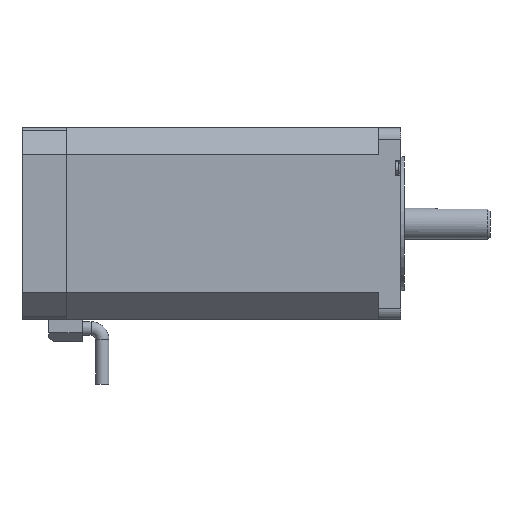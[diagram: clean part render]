
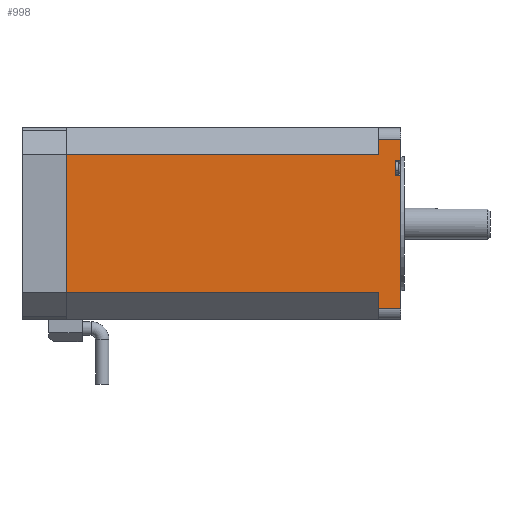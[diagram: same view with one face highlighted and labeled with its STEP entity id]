
A CAD part, left-side view. The second image highlights one B-rep face of the part: STEP entity #998.
In plain terms, the highlighted planar face has unit normal (-1, 0, 0).
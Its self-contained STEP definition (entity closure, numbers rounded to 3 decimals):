
#34 = LINE ( 'NONE', #3814, #2679 ) ;
#57 = LINE ( 'NONE', #176, #2163 ) ;
#129 = ORIENTED_EDGE ( 'NONE', *, *, #3328, .T. ) ;
#168 = DIRECTION ( 'NONE',  ( 0., 0., 1. ) ) ;
#176 = CARTESIAN_POINT ( 'NONE',  ( -40.542, -29.89, -38.5 ) ) ;
#292 = AXIS2_PLACEMENT_3D ( 'NONE', #2290, #1349, #4659 ) ;
#293 = CARTESIAN_POINT ( 'NONE',  ( -40.542, -37.39, 26.25 ) ) ;
#581 = CARTESIAN_POINT ( 'NONE',  ( -40.542, -29.89, 35.5 ) ) ;
#590 = ORIENTED_EDGE ( 'NONE', *, *, #845, .T. ) ;
#597 = VERTEX_POINT ( 'NONE', #2055 ) ;
#604 = VECTOR ( 'NONE', #4613, 1000. ) ;
#633 = CARTESIAN_POINT ( 'NONE',  ( -40.542, 92.948, 42.5 ) ) ;
#662 = ORIENTED_EDGE ( 'NONE', *, *, #2476, .F. ) ;
#676 = CARTESIAN_POINT ( 'NONE',  ( -40.542, -29.89, -33.5 ) ) ;
#718 = CARTESIAN_POINT ( 'NONE',  ( -40.542, -29.89, -26.5 ) ) ;
#845 = EDGE_CURVE ( 'NONE', #1261, #1469, #1928, .T. ) ;
#878 = DIRECTION ( 'NONE',  ( 0., 0., 1. ) ) ;
#958 = EDGE_CURVE ( 'NONE', #1933, #3076, #3984, .T. ) ;
#998 = ADVANCED_FACE ( 'NONE', ( #6077 ), #2159, .F. ) ;
#1056 = DIRECTION ( 'NONE',  ( 0., 0., -1. ) ) ;
#1114 = CARTESIAN_POINT ( 'NONE',  ( -40.542, -37.39, 26.25 ) ) ;
#1162 = DIRECTION ( 'NONE',  ( 0., -1., 0. ) ) ;
#1261 = VERTEX_POINT ( 'NONE', #676 ) ;
#1349 = DIRECTION ( 'NONE',  ( 1., 0., 0. ) ) ;
#1354 = CARTESIAN_POINT ( 'NONE',  ( -40.542, -37.39, 32.75 ) ) ;
#1357 = LINE ( 'NONE', #3274, #604 ) ;
#1455 = CARTESIAN_POINT ( 'NONE',  ( -40.542, -37.39, 32.75 ) ) ;
#1469 = VERTEX_POINT ( 'NONE', #4621 ) ;
#1488 = ORIENTED_EDGE ( 'NONE', *, *, #6107, .T. ) ;
#1489 = ORIENTED_EDGE ( 'NONE', *, *, #3624, .T. ) ;
#1500 = CARTESIAN_POINT ( 'NONE',  ( -40.542, -39.89, -38.5 ) ) ;
#1559 = EDGE_CURVE ( 'NONE', #2978, #1261, #57, .T. ) ;
#1672 = DIRECTION ( 'NONE',  ( 0., 0., -1. ) ) ;
#1682 = EDGE_CURVE ( 'NONE', #2937, #2103, #4517, .T. ) ;
#1803 = EDGE_CURVE ( 'NONE', #4150, #2383, #1357, .T. ) ;
#1928 = LINE ( 'NONE', #5805, #2557 ) ;
#1933 = VERTEX_POINT ( 'NONE', #5835 ) ;
#2055 = CARTESIAN_POINT ( 'NONE',  ( -40.542, -39.89, 32.75 ) ) ;
#2103 = VERTEX_POINT ( 'NONE', #1114 ) ;
#2127 = EDGE_CURVE ( 'NONE', #1469, #3339, #4415, .T. ) ;
#2159 = PLANE ( 'NONE',  #292 ) ;
#2163 = VECTOR ( 'NONE', #1056, 1000. ) ;
#2277 = VECTOR ( 'NONE', #878, 1000. ) ;
#2290 = CARTESIAN_POINT ( 'NONE',  ( -40.542, 110.11, -38.5 ) ) ;
#2383 = VERTEX_POINT ( 'NONE', #5736 ) ;
#2442 = ORIENTED_EDGE ( 'NONE', *, *, #1803, .F. ) ;
#2461 = DIRECTION ( 'NONE',  ( 0., 1., 0. ) ) ;
#2476 = EDGE_CURVE ( 'NONE', #2103, #3339, #5451, .T. ) ;
#2557 = VECTOR ( 'NONE', #4822, 1000. ) ;
#2679 = VECTOR ( 'NONE', #5292, 1000. ) ;
#2749 = EDGE_CURVE ( 'NONE', #2978, #4150, #4025, .T. ) ;
#2937 = VERTEX_POINT ( 'NONE', #1455 ) ;
#2968 = VECTOR ( 'NONE', #1672, 1000. ) ;
#2978 = VERTEX_POINT ( 'NONE', #718 ) ;
#3001 = VERTEX_POINT ( 'NONE', #581 ) ;
#3076 = VERTEX_POINT ( 'NONE', #3793 ) ;
#3274 = CARTESIAN_POINT ( 'NONE',  ( -40.542, 110.11, -38.5 ) ) ;
#3328 = EDGE_CURVE ( 'NONE', #1933, #3001, #34, .T. ) ;
#3339 = VERTEX_POINT ( 'NONE', #5476 ) ;
#3364 = ORIENTED_EDGE ( 'NONE', *, *, #958, .F. ) ;
#3378 = VECTOR ( 'NONE', #3466, 1000. ) ;
#3401 = EDGE_CURVE ( 'NONE', #3001, #2383, #4955, .T. ) ;
#3466 = DIRECTION ( 'NONE',  ( 0., 1., 0. ) ) ;
#3514 = VECTOR ( 'NONE', #4754, 1000. ) ;
#3624 = EDGE_CURVE ( 'NONE', #597, #3076, #5787, .T. ) ;
#3793 = CARTESIAN_POINT ( 'NONE',  ( -40.542, -39.89, 42.5 ) ) ;
#3814 = CARTESIAN_POINT ( 'NONE',  ( -40.542, -29.89, 35.5 ) ) ;
#3939 = CARTESIAN_POINT ( 'NONE',  ( -40.542, -56.861, 35.5 ) ) ;
#3984 = LINE ( 'NONE', #633, #5668 ) ;
#4025 = LINE ( 'NONE', #4837, #5168 ) ;
#4122 = EDGE_LOOP ( 'NONE', ( #5324, #662, #4285, #1488, #1489, #3364, #129, #6106, #2442, #5696, #4844, #590 ) ) ;
#4150 = VERTEX_POINT ( 'NONE', #4441 ) ;
#4252 = LINE ( 'NONE', #1354, #3514 ) ;
#4285 = ORIENTED_EDGE ( 'NONE', *, *, #1682, .F. ) ;
#4415 = LINE ( 'NONE', #4883, #5774 ) ;
#4440 = DIRECTION ( 'NONE',  ( 0., -1., 0. ) ) ;
#4441 = CARTESIAN_POINT ( 'NONE',  ( -40.542, 110.11, -26.5 ) ) ;
#4517 = LINE ( 'NONE', #293, #2968 ) ;
#4613 = DIRECTION ( 'NONE',  ( 0., 0., 1. ) ) ;
#4621 = CARTESIAN_POINT ( 'NONE',  ( -40.542, -39.89, -33.5 ) ) ;
#4659 = DIRECTION ( 'NONE',  ( 0., 0., -1. ) ) ;
#4754 = DIRECTION ( 'NONE',  ( 0., -1., 0. ) ) ;
#4822 = DIRECTION ( 'NONE',  ( 0., -1., 0. ) ) ;
#4837 = CARTESIAN_POINT ( 'NONE',  ( -40.542, -56.861, -26.5 ) ) ;
#4844 = ORIENTED_EDGE ( 'NONE', *, *, #1559, .T. ) ;
#4858 = VECTOR ( 'NONE', #1162, 1000. ) ;
#4883 = CARTESIAN_POINT ( 'NONE',  ( -40.542, -39.89, -38.5 ) ) ;
#4955 = LINE ( 'NONE', #3939, #3378 ) ;
#5168 = VECTOR ( 'NONE', #2461, 1000. ) ;
#5292 = DIRECTION ( 'NONE',  ( 0., 0., -1. ) ) ;
#5324 = ORIENTED_EDGE ( 'NONE', *, *, #2127, .T. ) ;
#5451 = LINE ( 'NONE', #5860, #4858 ) ;
#5476 = CARTESIAN_POINT ( 'NONE',  ( -40.542, -39.89, 26.25 ) ) ;
#5668 = VECTOR ( 'NONE', #4440, 1000. ) ;
#5696 = ORIENTED_EDGE ( 'NONE', *, *, #2749, .F. ) ;
#5736 = CARTESIAN_POINT ( 'NONE',  ( -40.542, 110.11, 35.5 ) ) ;
#5774 = VECTOR ( 'NONE', #168, 1000. ) ;
#5787 = LINE ( 'NONE', #1500, #2277 ) ;
#5805 = CARTESIAN_POINT ( 'NONE',  ( -40.542, 92.948, -33.5 ) ) ;
#5835 = CARTESIAN_POINT ( 'NONE',  ( -40.542, -29.89, 42.5 ) ) ;
#5860 = CARTESIAN_POINT ( 'NONE',  ( -40.542, -37.39, 26.25 ) ) ;
#6077 = FACE_OUTER_BOUND ( 'NONE', #4122, .T. ) ;
#6106 = ORIENTED_EDGE ( 'NONE', *, *, #3401, .T. ) ;
#6107 = EDGE_CURVE ( 'NONE', #2937, #597, #4252, .T. ) ;
